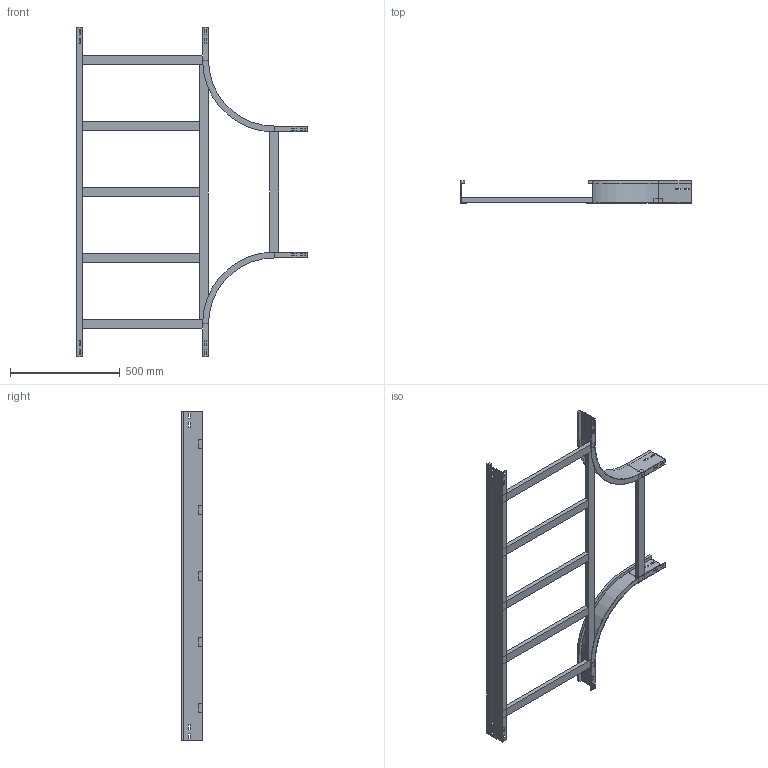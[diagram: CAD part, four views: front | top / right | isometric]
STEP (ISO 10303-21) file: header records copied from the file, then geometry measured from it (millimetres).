
FILE_DESCRIPTION (( 'STEP AP214' ), '1' );
FILE_NAME ('A2_15B3D600.step', '2025-02-21T15:49:44', ( '' ), ( '' ), 'SwSTEP 2.0', 'SolidWorks 2023', '' );
FILE_SCHEMA (( 'AUTOMOTIVE_DESIGN' ));
Length unit declared in the file: millimetre
Products named in the file (6): A2_LONGH.INTERNO 90°_H100_R300; TRAVERSINO_600; A2_TRAVERSINO_LONG._R300+600; TRAVERSINO_INTERMEDIO_R300+600; A2_15B3D600; A2_LONGH.RETT_H100_R300+600
Assembly tree (10 placements, depth 2):
  A2_15B3D600
    A2_LONGH.INTERNO 90°_H100_R300  x2
    A2_LONGH.RETT_H100_R300+600
    TRAVERSINO_600  x3
    A2_TRAVERSINO_LONG._R300+600
    TRAVERSINO_INTERMEDIO_R300+600  x3
Bounding box: 1050 x 100 x 1500 mm (x, y, z)
Volume: 5083661 mm3; surface area: 1442510.8 mm2
Topology: 10 solids, 10 shells, 200 faces, 508 edges, 328 vertices
Faces by surface type: plane 192, cylinder 8
Entity records: 3823 total; most frequent: CARTESIAN_POINT 639, ORIENTED_EDGE 616, DIRECTION 578, EDGE_CURVE 308, LINE 300, VECTOR 300, VERTEX_POINT 200, EDGE_LOOP 150
